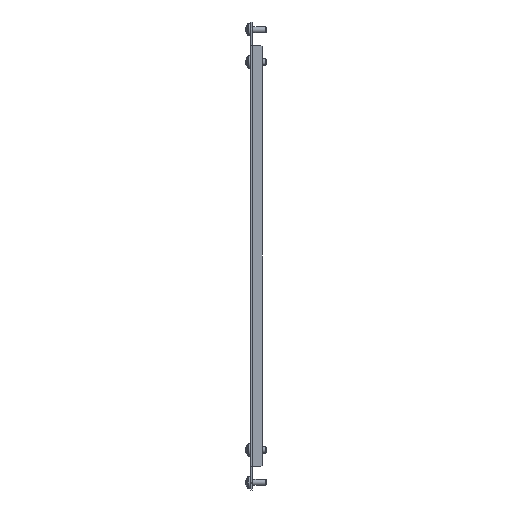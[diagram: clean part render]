
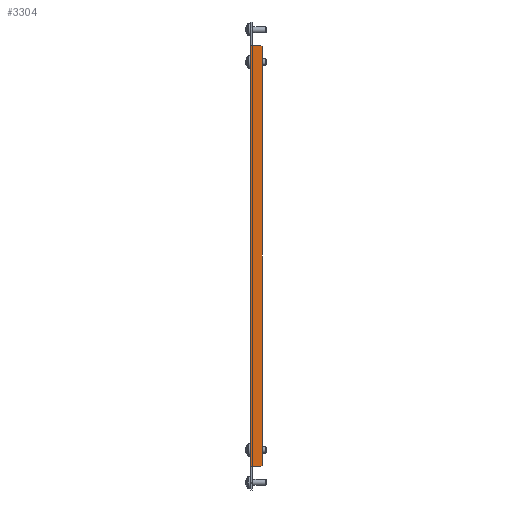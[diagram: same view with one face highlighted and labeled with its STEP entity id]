
A CAD part, left-side view. The second image highlights one B-rep face of the part: STEP entity #3304.
In plain terms, the highlighted planar face has unit normal (-1, 0, 0) as drawn and (1, 0, 0) by its records, which use the part's own axes.
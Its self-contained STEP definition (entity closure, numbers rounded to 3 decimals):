
#74 = ORIENTED_EDGE ( 'NONE', *, *, #257, .T. ) ;
#79 = VECTOR ( 'NONE', #2840, 1000. ) ;
#104 = CARTESIAN_POINT ( 'NONE',  ( 334., -162., -9. ) ) ;
#105 = VERTEX_POINT ( 'NONE', #2552 ) ;
#174 = CARTESIAN_POINT ( 'NONE',  ( 334., -162., -9. ) ) ;
#198 = AXIS2_PLACEMENT_3D ( 'NONE', #390, #2415, #647 ) ;
#208 = ORIENTED_EDGE ( 'NONE', *, *, #608, .T. ) ;
#255 = DIRECTION ( 'NONE',  ( 0., 0.707, 0.707 ) ) ;
#257 = EDGE_CURVE ( 'NONE', #281, #105, #3165, .T. ) ;
#260 = VERTEX_POINT ( 'NONE', #731 ) ;
#270 = CARTESIAN_POINT ( 'NONE',  ( 334., -163., -2.1 ) ) ;
#281 = VERTEX_POINT ( 'NONE', #1458 ) ;
#390 = CARTESIAN_POINT ( 'NONE',  ( 334., 0., 0. ) ) ;
#411 = LINE ( 'NONE', #879, #1065 ) ;
#448 = VECTOR ( 'NONE', #255, 1000. ) ;
#510 = VECTOR ( 'NONE', #2907, 1000. ) ;
#526 = ORIENTED_EDGE ( 'NONE', *, *, #2827, .T. ) ;
#608 = EDGE_CURVE ( 'NONE', #926, #2241, #411, .T. ) ;
#619 = DIRECTION ( 'NONE',  ( 0., 0.707, -0.707 ) ) ;
#647 = DIRECTION ( 'NONE',  ( 0., 0., 1. ) ) ;
#695 = DIRECTION ( 'NONE',  ( 0., 0., 1. ) ) ;
#711 = DIRECTION ( 'NONE',  ( 0., 1., 0. ) ) ;
#731 = CARTESIAN_POINT ( 'NONE',  ( 334., -163., 0. ) ) ;
#839 = VERTEX_POINT ( 'NONE', #270 ) ;
#879 = CARTESIAN_POINT ( 'NONE',  ( 334., 163., -2.1 ) ) ;
#926 = VERTEX_POINT ( 'NONE', #2608 ) ;
#1010 = ORIENTED_EDGE ( 'NONE', *, *, #1562, .F. ) ;
#1057 = LINE ( 'NONE', #2574, #79 ) ;
#1065 = VECTOR ( 'NONE', #3208, 1000. ) ;
#1221 = CARTESIAN_POINT ( 'NONE',  ( 334., 163., -8. ) ) ;
#1238 = VECTOR ( 'NONE', #711, 1000. ) ;
#1390 = LINE ( 'NONE', #104, #1989 ) ;
#1452 = VECTOR ( 'NONE', #1947, 1000. ) ;
#1458 = CARTESIAN_POINT ( 'NONE',  ( 334., 162., -9. ) ) ;
#1465 = EDGE_CURVE ( 'NONE', #105, #926, #2236, .T. ) ;
#1485 = ORIENTED_EDGE ( 'NONE', *, *, #1465, .T. ) ;
#1562 = EDGE_CURVE ( 'NONE', #839, #260, #1057, .T. ) ;
#1696 = CARTESIAN_POINT ( 'NONE',  ( 334., 163., 0. ) ) ;
#1880 = LINE ( 'NONE', #2887, #510 ) ;
#1947 = DIRECTION ( 'NONE',  ( 0., 0., -1. ) ) ;
#1962 = ORIENTED_EDGE ( 'NONE', *, *, #2640, .T. ) ;
#1989 = VECTOR ( 'NONE', #619, 1000. ) ;
#2062 = ORIENTED_EDGE ( 'NONE', *, *, #2734, .T. ) ;
#2064 = EDGE_LOOP ( 'NONE', ( #526, #74, #1485, #208, #1962, #1010, #2193, #2062 ) ) ;
#2177 = CARTESIAN_POINT ( 'NONE',  ( 334., -163., -8. ) ) ;
#2188 = EDGE_CURVE ( 'NONE', #839, #2245, #3234, .T. ) ;
#2193 = ORIENTED_EDGE ( 'NONE', *, *, #2188, .T. ) ;
#2216 = VERTEX_POINT ( 'NONE', #174 ) ;
#2236 = LINE ( 'NONE', #1696, #2577 ) ;
#2241 = VERTEX_POINT ( 'NONE', #2424 ) ;
#2245 = VERTEX_POINT ( 'NONE', #2177 ) ;
#2415 = DIRECTION ( 'NONE',  ( -1., 0., 0. ) ) ;
#2424 = CARTESIAN_POINT ( 'NONE',  ( 334., 163., 0. ) ) ;
#2552 = CARTESIAN_POINT ( 'NONE',  ( 334., 163., -8. ) ) ;
#2574 = CARTESIAN_POINT ( 'NONE',  ( 334., -163., 0. ) ) ;
#2577 = VECTOR ( 'NONE', #695, 1000. ) ;
#2608 = CARTESIAN_POINT ( 'NONE',  ( 334., 163., -2.1 ) ) ;
#2640 = EDGE_CURVE ( 'NONE', #2241, #260, #1880, .T. ) ;
#2668 = FACE_OUTER_BOUND ( 'NONE', #2064, .T. ) ;
#2683 = PLANE ( 'NONE',  #198 ) ;
#2732 = CARTESIAN_POINT ( 'NONE',  ( 334., 0., -9. ) ) ;
#2734 = EDGE_CURVE ( 'NONE', #2245, #2216, #1390, .T. ) ;
#2827 = EDGE_CURVE ( 'NONE', #2216, #281, #2989, .T. ) ;
#2840 = DIRECTION ( 'NONE',  ( 0., 0., 1. ) ) ;
#2887 = CARTESIAN_POINT ( 'NONE',  ( 334., 0., 0. ) ) ;
#2907 = DIRECTION ( 'NONE',  ( 0., -1., 0. ) ) ;
#2989 = LINE ( 'NONE', #2732, #1238 ) ;
#3165 = LINE ( 'NONE', #1221, #448 ) ;
#3188 = CARTESIAN_POINT ( 'NONE',  ( 334., -163., 0. ) ) ;
#3208 = DIRECTION ( 'NONE',  ( 0., 0., 1. ) ) ;
#3234 = LINE ( 'NONE', #3188, #1452 ) ;
#3304 = ADVANCED_FACE ( 'NONE', ( #2668 ), #2683, .F. ) ;
